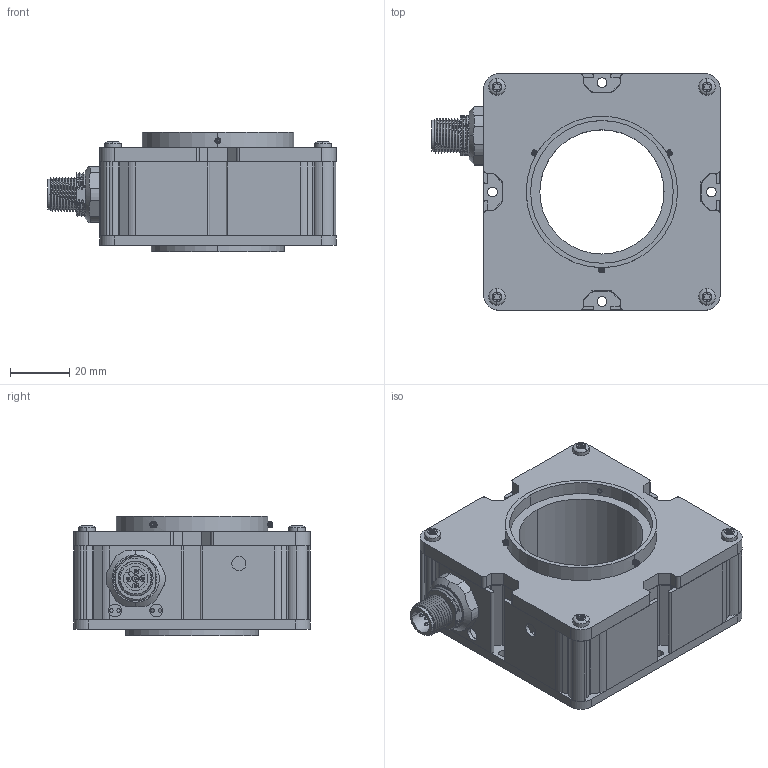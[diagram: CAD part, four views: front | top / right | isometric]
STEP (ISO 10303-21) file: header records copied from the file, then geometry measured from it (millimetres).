
FILE_DESCRIPTION (( 'STEP AP214' ), '1' );
FILE_NAME ('R80-RD80-R1.STEP', '2014-11-28T09:18:07', ( 'Dykema' ), ( 'Microsoft' ), 'SwSTEP 2.0', 'SolidWorks 2014', '' );
FILE_SCHEMA (( 'AUTOMOTIVE_DESIGN' ));
Length unit declared in the file: millimetre
Products named in the file (13): M12_Male; M12 Nut; Center Tube; 90925A108; 90033A105_90033A105; 92605A042_92605A042; PCB-00262-11; R80-RD80-R1; R80-SC; R80-Extrustion-25mm; R80-Extrustion-25mm_Driver; ASM-00362-07; PCB-00362-07
Assembly tree (22 placements, depth 3):
  R80-RD80-R1
    PCB-00262-11
    92605A042_92605A042  x3
    90033A105_90033A105  x4
    90925A108  x4
    Center Tube
    M12 Nut
    ASM-00362-07
      M12_Male
      PCB-00362-07
    R80-Extrustion-25mm_Driver
    R80-Extrustion-25mm  x3
    R80-SC
Bounding box: 97.52 x 79.99 x 40.45 mm (x, y, z)
Volume: 69882.6 mm3; surface area: 65521.7 mm2
Topology: 21 solids, 22 shells, 1457 faces, 3915 edges, 2523 vertices
Faces by surface type: cylinder 709, plane 328, cone 265, bspline 127, torus 28
Entity records: 50134 total; most frequent: CARTESIAN_POINT 27597, ORIENTED_EDGE 4190, DIRECTION 3837, EDGE_CURVE 2095, AXIS2_PLACEMENT_3D 1483, VERTEX_POINT 1368, EDGE_LOOP 883, LINE 871
